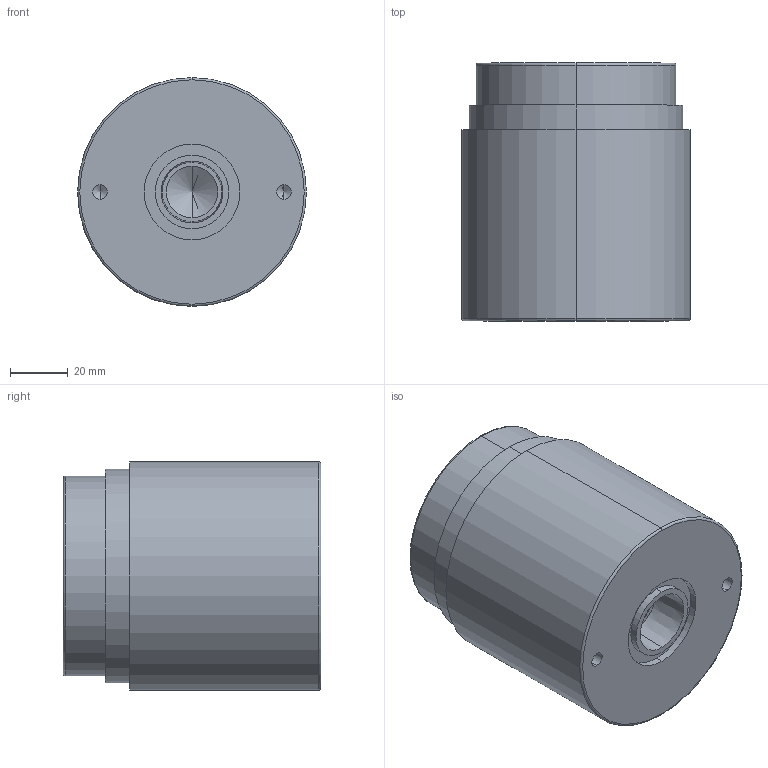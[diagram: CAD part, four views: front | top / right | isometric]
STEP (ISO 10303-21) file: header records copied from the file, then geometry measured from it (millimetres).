
FILE_DESCRIPTION (( 'STEP AP203' ), '1' );
FILE_NAME ('2 Body Style.STEP', '2020-02-09T00:14:06', ( '' ), ( '' ), 'SwSTEP 2.0', 'SolidWorks 2017', '' );
FILE_SCHEMA (( 'CONFIG_CONTROL_DESIGN' ));
Length unit declared in the file: inch
Products named in the file (1): 2 Body Style
Bounding box: 78.99 x 89 x 78.99 mm (x, y, z)
Volume: 380442.5 mm3; surface area: 37452.8 mm2
Topology: 1 solids, 1 shells, 38 faces, 80 edges, 47 vertices
Faces by surface type: cylinder 18, cone 8, plane 8, torus 4
Entity records: 1069 total; most frequent: DIRECTION 200, CARTESIAN_POINT 160, ORIENTED_EDGE 148, AXIS2_PLACEMENT_3D 87, EDGE_CURVE 74, CIRCLE 48, EDGE_LOOP 47, VERTEX_POINT 47
